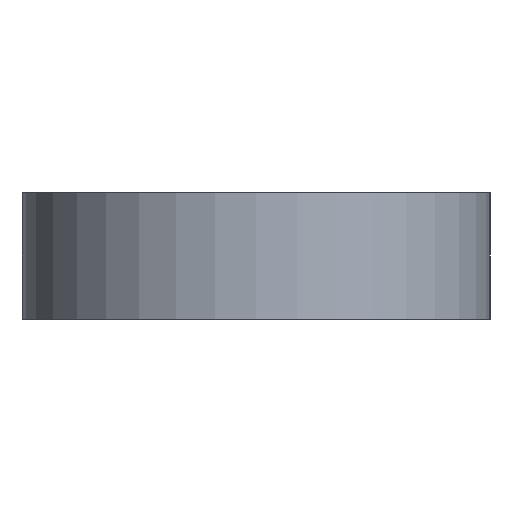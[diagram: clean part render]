
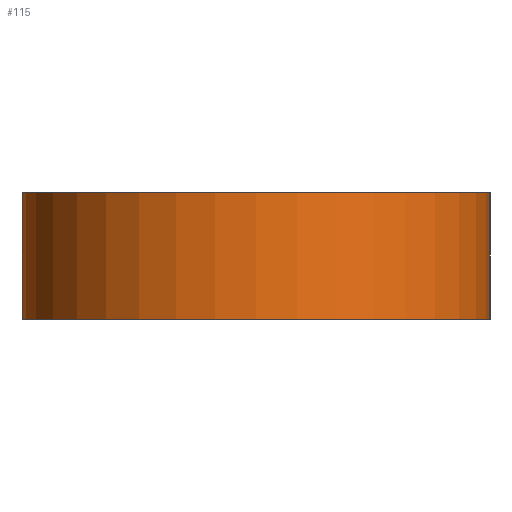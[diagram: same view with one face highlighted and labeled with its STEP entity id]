
A CAD part, front view. The second image highlights one B-rep face of the part: STEP entity #115.
In plain terms, the highlighted cylindrical face has radius 18.567 mm (diameter 37.133 mm), a partial arc.
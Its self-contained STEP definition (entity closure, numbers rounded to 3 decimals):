
#6 = CARTESIAN_POINT ( 'NONE',  ( 18.578, -88.078, 10. ) ) ;
#8 = DIRECTION ( 'NONE',  ( 0., 0., 1. ) ) ;
#13 = CARTESIAN_POINT ( 'NONE',  ( -18.555, -88.078, 10. ) ) ;
#36 = DIRECTION ( 'NONE',  ( 0., 0., -1. ) ) ;
#58 = VERTEX_POINT ( 'NONE', #133 ) ;
#63 = CARTESIAN_POINT ( 'NONE',  ( 0.012, -88.078, 0. ) ) ;
#73 = EDGE_LOOP ( 'NONE', ( #162, #78, #215, #190 ) ) ;
#76 = FACE_OUTER_BOUND ( 'NONE', #73, .T. ) ;
#78 = ORIENTED_EDGE ( 'NONE', *, *, #161, .F. ) ;
#91 = DIRECTION ( 'NONE',  ( 1., 0., 0. ) ) ;
#92 = DIRECTION ( 'NONE',  ( 0., 0., 1. ) ) ;
#115 = ADVANCED_FACE ( 'NONE', ( #76 ), #188, .T. ) ;
#116 = EDGE_CURVE ( 'NONE', #243, #209, #252, .T. ) ;
#132 = EDGE_CURVE ( 'NONE', #243, #58, #335, .T. ) ;
#133 = CARTESIAN_POINT ( 'NONE',  ( 18.578, -88.078, 10. ) ) ;
#161 = EDGE_CURVE ( 'NONE', #58, #299, #226, .T. ) ;
#162 = ORIENTED_EDGE ( 'NONE', *, *, #268, .T. ) ;
#173 = CARTESIAN_POINT ( 'NONE',  ( 18.578, -88.078, 0. ) ) ;
#177 = CARTESIAN_POINT ( 'NONE',  ( -18.555, -88.078, 0. ) ) ;
#185 = AXIS2_PLACEMENT_3D ( 'NONE', #333, #92, #310 ) ;
#188 = CYLINDRICAL_SURFACE ( 'NONE', #293, 18.567 ) ;
#190 = ORIENTED_EDGE ( 'NONE', *, *, #116, .T. ) ;
#203 = DIRECTION ( 'NONE',  ( -1., 0., 0. ) ) ;
#209 = VERTEX_POINT ( 'NONE', #177 ) ;
#215 = ORIENTED_EDGE ( 'NONE', *, *, #132, .F. ) ;
#226 = LINE ( 'NONE', #6, #297 ) ;
#228 = DIRECTION ( 'NONE',  ( 0., 0., -1. ) ) ;
#229 = VECTOR ( 'NONE', #228, 1000. ) ;
#243 = VERTEX_POINT ( 'NONE', #254 ) ;
#250 = DIRECTION ( 'NONE',  ( 0., 0., -1. ) ) ;
#252 = LINE ( 'NONE', #13, #229 ) ;
#254 = CARTESIAN_POINT ( 'NONE',  ( -18.555, -88.078, 10. ) ) ;
#268 = EDGE_CURVE ( 'NONE', #209, #299, #281, .T. ) ;
#281 = CIRCLE ( 'NONE', #342, 18.567 ) ;
#293 = AXIS2_PLACEMENT_3D ( 'NONE', #296, #36, #203 ) ;
#296 = CARTESIAN_POINT ( 'NONE',  ( 0.012, -88.078, 10. ) ) ;
#297 = VECTOR ( 'NONE', #250, 1000. ) ;
#299 = VERTEX_POINT ( 'NONE', #173 ) ;
#310 = DIRECTION ( 'NONE',  ( 1., 0., 0. ) ) ;
#333 = CARTESIAN_POINT ( 'NONE',  ( 0.012, -88.078, 10. ) ) ;
#335 = CIRCLE ( 'NONE', #185, 18.567 ) ;
#342 = AXIS2_PLACEMENT_3D ( 'NONE', #63, #8, #91 ) ;
